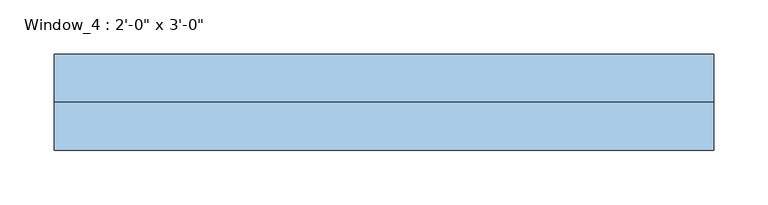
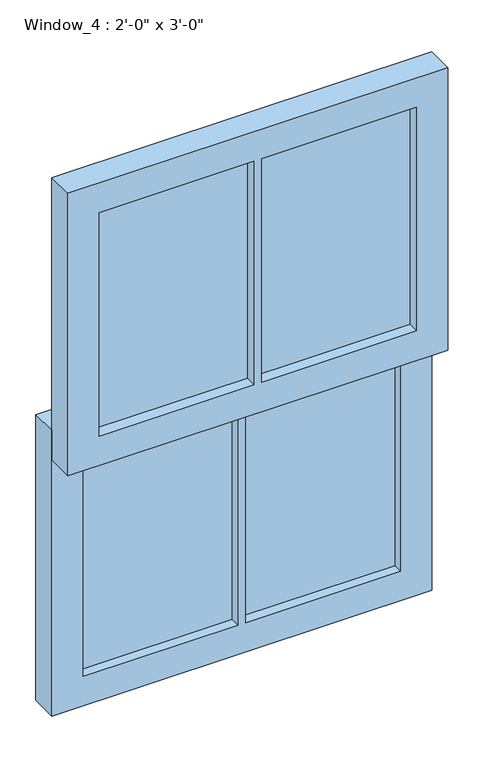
"""IFC4 building model written with IfcOpenShell, lengths in millimetres: window geometry."""

from ifc_helpers import new_model, si_unit, frame, origin, place, context, project, spatial, polyline, outline, extrude, source, transform, mapped, element, save


def window_7c996b03(model_context):
    return source(origin(), model_context, "Body", "SweptSolid", [
        extrude(outline(polyline([(-6.35, -69.85), (-6.35, -76.7853592), (-254.8, -76.7853592), (-254.8, -69.85), (-6.35, -69.85)])), frame((0.0, 0.0, 1323.175), z_axis=(0.0, 0.0, 1.0), x_axis=(1.0, 0.0, 0.0)), (0.0, 0.0, 1.0), 379.425),
        extrude(outline(polyline([(254.8, -69.85), (254.8, -76.7853592), (6.35, -76.7853592), (6.35, -69.85), (254.8, -69.85)])), frame((0.0, 0.0, 1323.175), z_axis=(0.0, 0.0, 1.0), x_axis=(1.0, 0.0, 0.0)), (0.0, 0.0, 1.0), 379.425),
        extrude(outline(polyline([(1752.6, -304.8), (1273.175, -304.8), (1273.175, 304.8), (1752.6, 304.8), (1752.6, -304.8)]), holes=[polyline([(1702.6, 6.35), (1702.6, 254.8), (1323.175, 254.8), (1323.175, 6.35), (1702.6, 6.35)]), polyline([(1323.175, -254.8), (1702.6, -254.8), (1702.6, -6.35), (1323.175, -6.35), (1323.175, -254.8)])]), frame((0.0, -95.25, 0.0), z_axis=(0.0, 1.0, 0.0), x_axis=(0.0, 0.0, 1.0)), (0.0, 0.0, 1.0), 44.45),
        extrude(outline(polyline([(6.35, -34.925), (6.35, -22.225), (254.8, -22.225), (254.8, -34.925), (6.35, -34.925)])), frame((0.0, 0.0, 888.2), z_axis=(0.0, 0.0, 1.0), x_axis=(1.0, 0.0, 0.0)), (0.0, 0.0, 1.0), 384.975),
        extrude(outline(polyline([(-254.8, -34.925), (-254.8, -22.225), (-6.35, -22.225), (-6.35, -34.925), (-254.8, -34.925)])), frame((0.0, 0.0, 888.2), z_axis=(0.0, 0.0, 1.0), x_axis=(1.0, 0.0, 0.0)), (0.0, 0.0, 1.0), 384.975),
        extrude(outline(polyline([(1323.175, -304.8), (838.2, -304.8), (838.2, 304.8), (1323.175, 304.8), (1323.175, -304.8)]), holes=[polyline([(888.2, -254.8), (1273.175, -254.8), (1273.175, -6.35), (888.2, -6.35), (888.2, -254.8)]), polyline([(1273.175, 6.35), (1273.175, 254.8), (888.2, 254.8), (888.2, 6.35), (1273.175, 6.35)])]), frame((0.0, -50.8, 0.0), z_axis=(0.0, 1.0, 0.0), x_axis=(0.0, 0.0, 1.0)), (0.0, 0.0, 1.0), 44.45),
    ])


if __name__ == "__main__":
    model = new_model("IFC4")
    model_context = context("Model", 3, world=origin())
    ifc_project = project(units=[si_unit("LENGTHUNIT", "METRE", prefix="MILLI")], contexts=[model_context])
    site = spatial("IfcSite", under=ifc_project)
    building = spatial("IfcBuilding", under=site)
    placement = place(None, origin())
    window_shape = window_7c996b03(model_context)
    element("IfcWindow", 1, ObjectType="Window_4 : 2'-0\" x 3'-0\"", at=placement, inside=building, context=model_context, shape_type="MappedRepresentation", body=[
        mapped(window_shape, transform((0.0, 0.0, 0.0), x_axis=(1.0, 0.0, 0.0), y_axis=(0.0, 1.0, 0.0), z_axis=(0.0, 0.0, 1.0))),
    ])
    save(model, "model.ifc")
